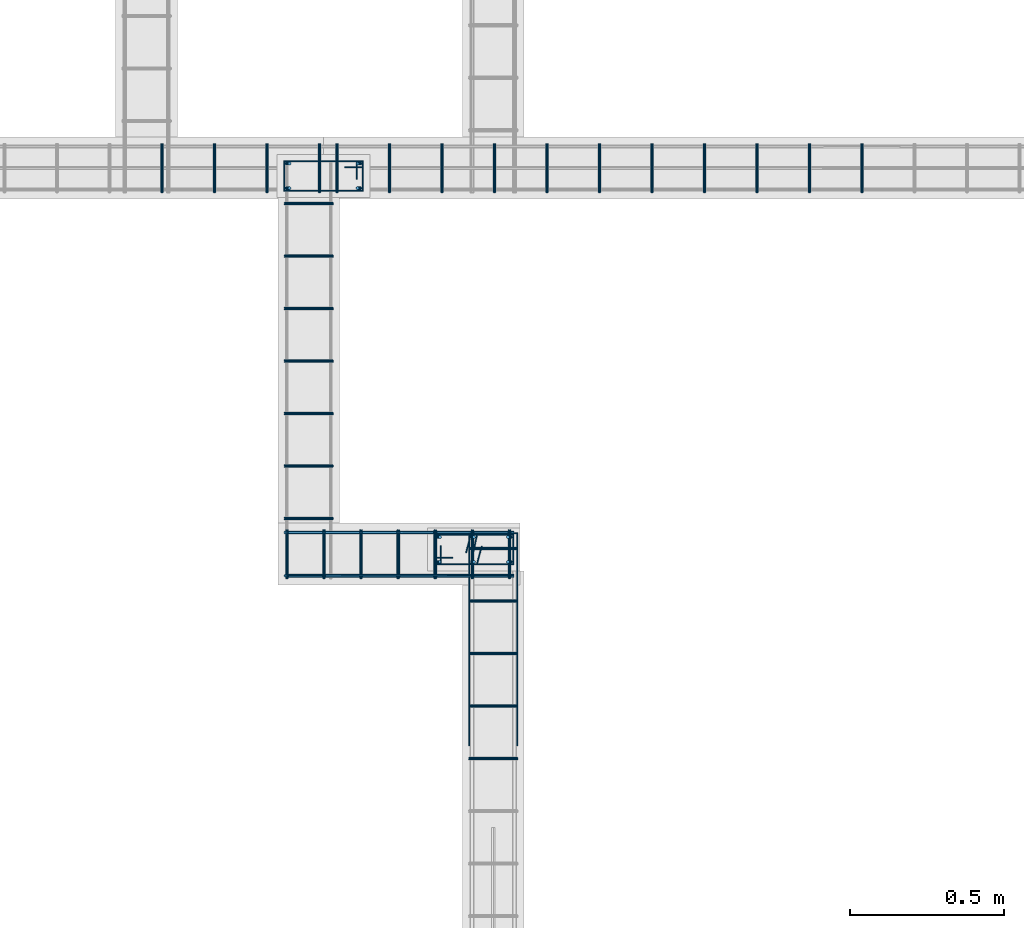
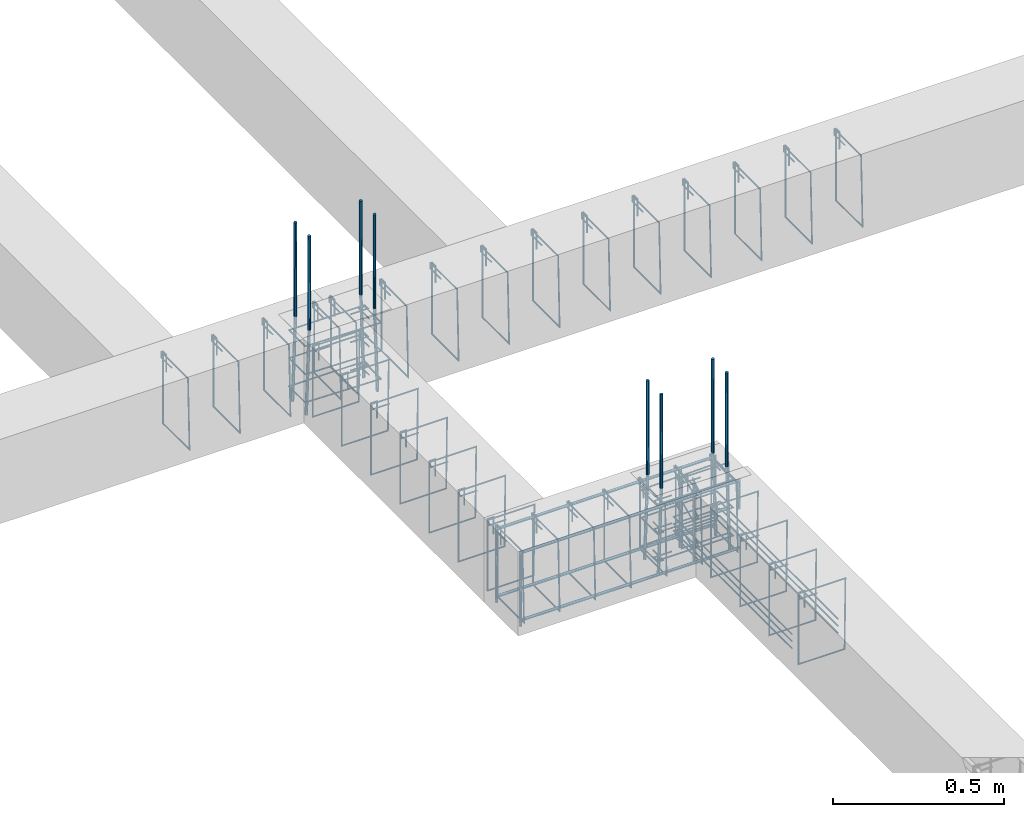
# One storey, part 72 of 150: 60 reinforcing bars.
"""IFC4 building model written with IfcOpenShell, lengths in centimetres."""

from ifc_helpers import new_model, entity, si_unit, derived_unit, frame, origin_with_axes, place, context, project, spatial, source, transform, mapped, element, save


model = new_model("IFC4")

# Units and contexts
model_context = context("Model", 3, precision=1e-05, world=origin_with_axes(), identifier="Body")
ifc_project = project(units=[si_unit("LENGTHUNIT", "METRE", prefix="CENTI"), si_unit("VOLUMEUNIT", "CUBIC_METRE"), si_unit("AREAUNIT", "SQUARE_METRE"), si_unit("POWERUNIT", "WATT"), si_unit("LUMINOUSFLUXUNIT", "LUMEN"), si_unit("ELECTRICCURRENTUNIT", "AMPERE"), si_unit("PRESSUREUNIT", "PASCAL", prefix="KILO"), si_unit("MASSUNIT", "GRAM", prefix="KILO"), si_unit("PLANEANGLEUNIT", "RADIAN"), derived_unit("VOLUMETRICFLOWRATEUNIT", [(si_unit("LENGTHUNIT", "METRE"), 3), (si_unit("TIMEUNIT", "SECOND"), -1)])], contexts=[model_context])

# Site, building, storey
site_placement = place(None, frame((-4000.0, 0.0, 0.0), z_axis=(0.0, 0.0, 1.0), x_axis=(1.0, 0.0, 0.0)))
site = spatial("IfcSite", under=ifc_project, at=site_placement, Name="PADRÃO")
building_placement = place(site_placement, frame((0.0, 0.0, -14.0)))
building = spatial("IfcBuilding", under=site, at=building_placement, Name="CRECHE PRÉ-ESCOLA TIPO 2")
placement = place(building_placement, origin_with_axes())
storey_placement = place(placement, frame((0.0, 0.0, 30.0), z_axis=(0.0, 0.0, 1.0), x_axis=(1.0, 0.0, 0.0)))
storey = spatial("IfcBuildingStorey", under=building, at=storey_placement, Name="VIGA BALDRAME", CompositionType="ELEMENT", Elevation=16.0)

# Reinforcing bars
shared_shape_1 = source(origin_with_axes(), model_context, "Body", "AdvancedSweptSolid", [
    entity("IfcSweptDiskSolid", entity("IfcCompositeCurve", [entity("IfcCompositeCurveSegment", "CONTINUOUS", True, entity("IfcPolyline", [entity("IfcCartesianPoint", [4.25, 21.75, 0.0]), entity("IfcCartesianPoint", [4.25, 27.75, 0.0])])), entity("IfcCompositeCurveSegment", "CONTINUOUS", True, entity("IfcPolyline", [entity("IfcCartesianPoint", [4.25, 27.75, 0.0]), entity("IfcCartesianPoint", [2.25, 27.75, 0.0])])), entity("IfcCompositeCurveSegment", "CONTINUOUS", True, entity("IfcPolyline", [entity("IfcCartesianPoint", [2.25, 27.75, 0.0]), entity("IfcCartesianPoint", [2.25, 2.25, 0.0])])), entity("IfcCompositeCurveSegment", "CONTINUOUS", True, entity("IfcPolyline", [entity("IfcCartesianPoint", [2.25, 2.25, 0.0]), entity("IfcCartesianPoint", [11.75, 2.25, 0.0])])), entity("IfcCompositeCurveSegment", "CONTINUOUS", True, entity("IfcPolyline", [entity("IfcCartesianPoint", [11.75, 2.25, 0.0]), entity("IfcCartesianPoint", [11.75, 27.75, -0.5])])), entity("IfcCompositeCurveSegment", "CONTINUOUS", True, entity("IfcPolyline", [entity("IfcCartesianPoint", [11.75, 27.75, -0.5]), entity("IfcCartesianPoint", [2.25, 27.75, -0.5])])), entity("IfcCompositeCurveSegment", "CONTINUOUS", True, entity("IfcPolyline", [entity("IfcCartesianPoint", [2.25, 27.75, -0.5]), entity("IfcCartesianPoint", [2.25, 25.75, -0.5])])), entity("IfcCompositeCurveSegment", "CONTINUOUS", True, entity("IfcPolyline", [entity("IfcCartesianPoint", [2.25, 25.75, -0.5]), entity("IfcCartesianPoint", [8.25, 25.75, -0.5])]))], False), 0.25),
])
for number, where, z_axis, x_axis, name in (
    (1, (1046.0, 3204.49, -25.0), (0.0, 0.0, 1.0), (0.0, -1.0, 0.0), "P50 - Estribo"),
    (2, (1046.0, 3204.49, -15.0), (0.0, 0.0, 1.0), (0.0, -1.0, 0.0), "P50 - Estribo"),
    (3, (1046.0, 3204.49, -5.0), (0.0, 0.0, 1.0), (0.0, -1.0, 0.0), "P50 - Estribo"),
):
    element("IfcReinforcingBar", number, at=place(storey_placement, frame(where, z_axis=z_axis, x_axis=x_axis)), inside=storey, Name=name, BarLength=0.0, CrossSectionArea=1.9634954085e-05, NominalDiameter=0.5, PredefinedType="MAIN", context=model_context, shape_type="MappedRepresentation", body=[
        mapped(shared_shape_1, transform((0.0, 0.0, 0.0), scale=1.0)),
    ])
shared_shape_2 = source(origin_with_axes(), model_context, "Body", "AdvancedSweptSolid", [
    entity("IfcSweptDiskSolid", entity("IfcCompositeCurve", [entity("IfcCompositeCurveSegment", "CONTINUOUS", True, entity("IfcPolyline", [entity("IfcCartesianPoint", [4.25, 21.75, 0.0]), entity("IfcCartesianPoint", [4.25, 27.75, 0.0])])), entity("IfcCompositeCurveSegment", "CONTINUOUS", True, entity("IfcPolyline", [entity("IfcCartesianPoint", [4.25, 27.75, 0.0]), entity("IfcCartesianPoint", [2.25, 27.75, 0.0])])), entity("IfcCompositeCurveSegment", "CONTINUOUS", True, entity("IfcPolyline", [entity("IfcCartesianPoint", [2.25, 27.75, 0.0]), entity("IfcCartesianPoint", [2.25, 2.25, 0.0])])), entity("IfcCompositeCurveSegment", "CONTINUOUS", True, entity("IfcPolyline", [entity("IfcCartesianPoint", [2.25, 2.25, 0.0]), entity("IfcCartesianPoint", [11.75, 2.25, 0.0])])), entity("IfcCompositeCurveSegment", "CONTINUOUS", True, entity("IfcPolyline", [entity("IfcCartesianPoint", [11.75, 2.25, 0.0]), entity("IfcCartesianPoint", [11.75, 27.75, -0.5])])), entity("IfcCompositeCurveSegment", "CONTINUOUS", True, entity("IfcPolyline", [entity("IfcCartesianPoint", [11.75, 27.75, -0.5]), entity("IfcCartesianPoint", [2.25, 27.75, -0.5])])), entity("IfcCompositeCurveSegment", "CONTINUOUS", True, entity("IfcPolyline", [entity("IfcCartesianPoint", [2.25, 27.75, -0.5]), entity("IfcCartesianPoint", [2.25, 25.75, -0.5])])), entity("IfcCompositeCurveSegment", "CONTINUOUS", True, entity("IfcPolyline", [entity("IfcCartesianPoint", [2.25, 25.75, -0.5]), entity("IfcCartesianPoint", [8.25, 25.75, -0.5])]))], False), 0.25),
])
for number, where, z_axis, x_axis, name in (
    (4, (1124.72, 3069.5, -5.0), (0.0, 0.0, 1.0), (0.0, 1.0, 0.0), "P58 - Estribo"),
    (5, (1124.72, 3069.5, -25.0), (0.0, 0.0, 1.0), (0.0, 1.0, 0.0), "P58 - Estribo"),
    (6, (1124.72, 3069.5, -15.0), (0.0, 0.0, 1.0), (0.0, 1.0, 0.0), "P58 - Estribo"),
):
    element("IfcReinforcingBar", number, at=place(storey_placement, frame(where, z_axis=z_axis, x_axis=x_axis)), inside=storey, Name=name, BarLength=0.0, CrossSectionArea=1.9634954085e-05, NominalDiameter=0.5, PredefinedType="MAIN", context=model_context, shape_type="MappedRepresentation", body=[
        mapped(shared_shape_2, transform((0.0, 0.0, 0.0), scale=1.0)),
    ])
shared_shape_3 = source(origin_with_axes(), model_context, "Body", "AdvancedSweptSolid", [
    entity("IfcSweptDiskSolid", entity("IfcCompositeCurve", [entity("IfcCompositeCurveSegment", "CONTINUOUS", True, entity("IfcPolyline", [entity("IfcCartesianPoint", [5.88627916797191, 17.5449050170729, 0.0]), entity("IfcCartesianPoint", [11.75, 16.0, 0.0])])), entity("IfcCompositeCurveSegment", "CONTINUOUS", True, entity("IfcPolyline", [entity("IfcCartesianPoint", [11.75, 16.0, 0.0]), entity("IfcCartesianPoint", [11.75, 14.0, 0.0])])), entity("IfcCompositeCurveSegment", "CONTINUOUS", True, entity("IfcPolyline", [entity("IfcCartesianPoint", [11.75, 14.0, 0.0]), entity("IfcCartesianPoint", [2.25, 16.0, 0.0])])), entity("IfcCompositeCurveSegment", "CONTINUOUS", True, entity("IfcPolyline", [entity("IfcCartesianPoint", [2.25, 16.0, 0.0]), entity("IfcCartesianPoint", [2.25, 14.0, 0.0])])), entity("IfcCompositeCurveSegment", "CONTINUOUS", True, entity("IfcPolyline", [entity("IfcCartesianPoint", [2.25, 14.0, 0.0]), entity("IfcCartesianPoint", [8.11372083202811, 12.4550949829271, 0.0])]))], False), 0.25),
])
for number, where, z_axis, x_axis, name in (
    (7, (1124.72, 3069.5, -14.5), (0.0, 0.0, 1.0), (0.0, 1.0, 0.0), "P58 - Grampo"),
    (8, (1124.72, 3069.5, -24.5), (0.0, 0.0, 1.0), (0.0, 1.0, 0.0), "P58 - Grampo"),
    (9, (1124.72, 3069.5, -4.5), (0.0, 0.0, 1.0), (0.0, 1.0, 0.0), "P58 - Grampo"),
):
    element("IfcReinforcingBar", number, at=place(storey_placement, frame(where, z_axis=z_axis, x_axis=x_axis)), inside=storey, Name=name, BarLength=0.0, CrossSectionArea=1.9634954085e-05, NominalDiameter=0.5, PredefinedType="MAIN", context=model_context, shape_type="MappedRepresentation", body=[
        mapped(shared_shape_3, transform((0.0, 0.0, 0.0), scale=1.0)),
    ])
shared_shape_4 = source(origin_with_axes(), model_context, "Body", "AdvancedSweptSolid", [
    entity("IfcSweptDiskSolid", entity("IfcCompositeCurve", [entity("IfcCompositeCurveSegment", "CONTINUOUS", True, entity("IfcPolyline", [entity("IfcCartesianPoint", [2.0, -6.0, 0.0]), entity("IfcCartesianPoint", [2.0, 0.0, 0.0])])), entity("IfcCompositeCurveSegment", "CONTINUOUS", True, entity("IfcPolyline", [entity("IfcCartesianPoint", [2.0, 0.0, 0.0]), entity("IfcCartesianPoint", [0.0, 0.0, 0.0])])), entity("IfcCompositeCurveSegment", "CONTINUOUS", True, entity("IfcPolyline", [entity("IfcCartesianPoint", [0.0, 0.0, 0.0]), entity("IfcCartesianPoint", [0.0, -25.5, 0.0])])), entity("IfcCompositeCurveSegment", "CONTINUOUS", True, entity("IfcPolyline", [entity("IfcCartesianPoint", [0.0, -25.5, 0.0]), entity("IfcCartesianPoint", [15.5, -25.5, 0.0])])), entity("IfcCompositeCurveSegment", "CONTINUOUS", True, entity("IfcPolyline", [entity("IfcCartesianPoint", [15.5, -25.5, 0.0]), entity("IfcCartesianPoint", [15.5, 0.0, 0.5])])), entity("IfcCompositeCurveSegment", "CONTINUOUS", True, entity("IfcPolyline", [entity("IfcCartesianPoint", [15.5, 0.0, 0.5]), entity("IfcCartesianPoint", [0.0, 0.0, 0.5])])), entity("IfcCompositeCurveSegment", "CONTINUOUS", True, entity("IfcPolyline", [entity("IfcCartesianPoint", [0.0, 0.0, 0.5]), entity("IfcCartesianPoint", [0.0, -2.0, 0.5])])), entity("IfcCompositeCurveSegment", "CONTINUOUS", True, entity("IfcPolyline", [entity("IfcCartesianPoint", [0.0, -2.0, 0.5]), entity("IfcCartesianPoint", [6.0, -2.0, 0.5])]))], False), 0.25),
])
for number, where, z_axis, x_axis, name in (
    (10, (1009.0, 3207.77, -2.25), (-1.0, 0.0, 0.0), (0.0, -1.0, 0.0), "V113 - Estribo"),
    (11, (1026.0, 3207.77, -2.25), (-1.0, 0.0, 0.0), (0.0, -1.0, 0.0), "V113 - Estribo"),
    (12, (1043.0, 3207.77, -2.25), (-1.0, 0.0, 0.0), (0.0, -1.0, 0.0), "V113 - Estribo"),
    (13, (1060.0, 3207.77, -2.25), (-1.0, 0.0, 0.0), (0.0, -1.0, 0.0), "V113 - Estribo"),
):
    element("IfcReinforcingBar", number, at=place(storey_placement, frame(where, z_axis=z_axis, x_axis=x_axis)), inside=storey, Name=name, BarLength=0.0, CrossSectionArea=1.9634954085e-05, NominalDiameter=0.5, PredefinedType="MAIN", context=model_context, shape_type="MappedRepresentation", body=[
        mapped(shared_shape_4, transform((0.0, 0.0, 0.0), scale=1.0)),
    ])
shared_shape_5 = source(origin_with_axes(), model_context, "Body", "AdvancedSweptSolid", [
    entity("IfcSweptDiskSolid", entity("IfcCompositeCurve", [entity("IfcCompositeCurveSegment", "CONTINUOUS", True, entity("IfcPolyline", [entity("IfcCartesianPoint", [2.0, -6.0, 0.0]), entity("IfcCartesianPoint", [2.0, 0.0, 0.0])])), entity("IfcCompositeCurveSegment", "CONTINUOUS", True, entity("IfcPolyline", [entity("IfcCartesianPoint", [2.0, 0.0, 0.0]), entity("IfcCartesianPoint", [0.0, 0.0, 0.0])])), entity("IfcCompositeCurveSegment", "CONTINUOUS", True, entity("IfcPolyline", [entity("IfcCartesianPoint", [0.0, 0.0, 0.0]), entity("IfcCartesianPoint", [0.0, -25.5, 0.0])])), entity("IfcCompositeCurveSegment", "CONTINUOUS", True, entity("IfcPolyline", [entity("IfcCartesianPoint", [0.0, -25.5, 0.0]), entity("IfcCartesianPoint", [15.5, -25.5, 0.0])])), entity("IfcCompositeCurveSegment", "CONTINUOUS", True, entity("IfcPolyline", [entity("IfcCartesianPoint", [15.5, -25.5, 0.0]), entity("IfcCartesianPoint", [15.5, 0.0, 0.5])])), entity("IfcCompositeCurveSegment", "CONTINUOUS", True, entity("IfcPolyline", [entity("IfcCartesianPoint", [15.5, 0.0, 0.5]), entity("IfcCartesianPoint", [0.0, 0.0, 0.5])])), entity("IfcCompositeCurveSegment", "CONTINUOUS", True, entity("IfcPolyline", [entity("IfcCartesianPoint", [0.0, 0.0, 0.5]), entity("IfcCartesianPoint", [0.0, -2.0, 0.5])])), entity("IfcCompositeCurveSegment", "CONTINUOUS", True, entity("IfcPolyline", [entity("IfcCartesianPoint", [0.0, -2.0, 0.5]), entity("IfcCartesianPoint", [6.0, -2.0, 0.5])]))], False), 0.25),
])
for number, where, z_axis, x_axis, name in (
    (14, (1065.625, 3207.77, -2.25), (-1.0, 0.0, 0.0), (0.0, -1.0, 0.0), "V113 - Estribo"),
    (15, (1082.625, 3207.77, -2.25), (-1.0, 0.0, 0.0), (0.0, -1.0, 0.0), "V113 - Estribo"),
    (16, (1099.625, 3207.77, -2.25), (-1.0, 0.0, 0.0), (0.0, -1.0, 0.0), "V113 - Estribo"),
    (17, (1116.625, 3207.77, -2.25), (-1.0, 0.0, 0.0), (0.0, -1.0, 0.0), "V113 - Estribo"),
    (18, (1133.625, 3207.77, -2.25), (-1.0, 0.0, 0.0), (0.0, -1.0, 0.0), "V113 - Estribo"),
    (19, (1150.625, 3207.77, -2.25), (-1.0, 0.0, 0.0), (0.0, -1.0, 0.0), "V113 - Estribo"),
    (20, (1167.625, 3207.77, -2.25), (-1.0, 0.0, 0.0), (0.0, -1.0, 0.0), "V113 - Estribo"),
    (21, (1184.625, 3207.77, -2.25), (-1.0, 0.0, 0.0), (0.0, -1.0, 0.0), "V113 - Estribo"),
    (22, (1201.625, 3207.77, -2.25), (-1.0, 0.0, 0.0), (0.0, -1.0, 0.0), "V113 - Estribo"),
    (23, (1218.625, 3207.77, -2.25), (-1.0, 0.0, 0.0), (0.0, -1.0, 0.0), "V113 - Estribo"),
    (24, (1235.625, 3207.77, -2.25), (-1.0, 0.0, 0.0), (0.0, -1.0, 0.0), "V113 - Estribo"),
):
    element("IfcReinforcingBar", number, at=place(storey_placement, frame(where, z_axis=z_axis, x_axis=x_axis)), inside=storey, Name=name, BarLength=0.0, CrossSectionArea=1.9634954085e-05, NominalDiameter=0.5, PredefinedType="MAIN", context=model_context, shape_type="MappedRepresentation", body=[
        mapped(shared_shape_5, transform((0.0, 0.0, 0.0), scale=1.0)),
    ])
shared_shape_6 = source(origin_with_axes(), model_context, "Body", "AdvancedSweptSolid", [
    entity("IfcSweptDiskSolid", entity("IfcCompositeCurve", [entity("IfcCompositeCurveSegment", "CONTINUOUS", True, entity("IfcPolyline", [entity("IfcCartesianPoint", [2.0, -6.0, 0.0]), entity("IfcCartesianPoint", [2.0, 0.0, 0.0])])), entity("IfcCompositeCurveSegment", "CONTINUOUS", True, entity("IfcPolyline", [entity("IfcCartesianPoint", [2.0, 0.0, 0.0]), entity("IfcCartesianPoint", [0.0, 0.0, 0.0])])), entity("IfcCompositeCurveSegment", "CONTINUOUS", True, entity("IfcPolyline", [entity("IfcCartesianPoint", [0.0, 0.0, 0.0]), entity("IfcCartesianPoint", [0.0, -25.5, 0.0])])), entity("IfcCompositeCurveSegment", "CONTINUOUS", True, entity("IfcPolyline", [entity("IfcCartesianPoint", [0.0, -25.5, 0.0]), entity("IfcCartesianPoint", [15.5, -25.5, 0.0])])), entity("IfcCompositeCurveSegment", "CONTINUOUS", True, entity("IfcPolyline", [entity("IfcCartesianPoint", [15.5, -25.5, 0.0]), entity("IfcCartesianPoint", [15.5, 0.0, 0.5])])), entity("IfcCompositeCurveSegment", "CONTINUOUS", True, entity("IfcPolyline", [entity("IfcCartesianPoint", [15.5, 0.0, 0.5]), entity("IfcCartesianPoint", [0.0, 0.0, 0.5])])), entity("IfcCompositeCurveSegment", "CONTINUOUS", True, entity("IfcPolyline", [entity("IfcCartesianPoint", [0.0, 0.0, 0.5]), entity("IfcCartesianPoint", [0.0, -2.0, 0.5])])), entity("IfcCompositeCurveSegment", "CONTINUOUS", True, entity("IfcPolyline", [entity("IfcCartesianPoint", [0.0, -2.0, 0.5]), entity("IfcCartesianPoint", [6.0, -2.0, 0.5])]))], False), 0.25),
])
for number, where, z_axis, x_axis, name in (
    (25, (1108.25, 3077.0, -2.25), (0.0, -1.0, 0.0), (1.0, 0.0, 0.0), "V183 - Estribo"),
    (26, (1108.25, 3060.0, -2.25), (0.0, -1.0, 0.0), (1.0, 0.0, 0.0), "V183 - Estribo"),
    (27, (1108.25, 3043.0, -2.25), (0.0, -1.0, 0.0), (1.0, 0.0, 0.0), "V183 - Estribo"),
    (28, (1108.25, 3026.0, -2.25), (0.0, -1.0, 0.0), (1.0, 0.0, 0.0), "V183 - Estribo"),
    (29, (1108.25, 3009.0, -2.25), (0.0, -1.0, 0.0), (1.0, 0.0, 0.0), "V183 - Estribo"),
):
    element("IfcReinforcingBar", number, at=place(storey_placement, frame(where, z_axis=z_axis, x_axis=x_axis)), inside=storey, Name=name, BarLength=0.0, CrossSectionArea=1.9634954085e-05, NominalDiameter=0.5, PredefinedType="MAIN", context=model_context, shape_type="MappedRepresentation", body=[
        mapped(shared_shape_6, transform((0.0, 0.0, 0.0), scale=1.0)),
    ])
shared_shape_7 = source(origin_with_axes(), model_context, "Body", "AdvancedSweptSolid", [
    entity("IfcSweptDiskSolid", entity("IfcCompositeCurve", [entity("IfcCompositeCurveSegment", "CONTINUOUS", True, entity("IfcPolyline", [entity("IfcCartesianPoint", [0.0, 0.0, 0.0]), entity("IfcCartesianPoint", [0.0, 68.9569359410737, 0.0])])), entity("IfcCompositeCurveSegment", "CONTINUOUS", True, entity("IfcPolyline", [entity("IfcCartesianPoint", [0.0, 68.9569359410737, 0.0]), entity("IfcCartesianPoint", [-15.5, 68.9569359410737, 0.0])])), entity("IfcCompositeCurveSegment", "CONTINUOUS", True, entity("IfcPolyline", [entity("IfcCartesianPoint", [-15.5, 68.9569359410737, 0.0]), entity("IfcCartesianPoint", [-15.5, 0.0, 0.0])]))], False), 0.25),
])
for number, where, z_axis, x_axis, name in (
    (30, (1123.75, 3012.79306405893, -24.375), (0.0, 0.0, 1.0), (1.0, 0.0, 0.0), "V183 - Grampo"),
    (31, (1123.75, 3012.79306405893, -21.875), (0.0, 0.0, 1.0), (1.0, 0.0, 0.0), "V183 - Grampo"),
    (32, (1123.75, 3012.79306405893, -19.375), (0.0, 0.0, 1.0), (1.0, 0.0, 0.0), "V183 - Grampo"),
):
    element("IfcReinforcingBar", number, at=place(storey_placement, frame(where, z_axis=z_axis, x_axis=x_axis)), inside=storey, Name=name, BarLength=0.0, CrossSectionArea=1.9634954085e-05, NominalDiameter=0.5, PredefinedType="MAIN", context=model_context, shape_type="MappedRepresentation", body=[
        mapped(shared_shape_7, transform((0.0, 0.0, 0.0), scale=1.0)),
    ])
shared_shape_8 = source(origin_with_axes(), model_context, "Body", "AdvancedSweptSolid", [
    entity("IfcSweptDiskSolid", entity("IfcCompositeCurve", [entity("IfcCompositeCurveSegment", "CONTINUOUS", True, entity("IfcPolyline", [entity("IfcCartesianPoint", [2.0, -6.0, 0.0]), entity("IfcCartesianPoint", [2.0, 0.0, 0.0])])), entity("IfcCompositeCurveSegment", "CONTINUOUS", True, entity("IfcPolyline", [entity("IfcCartesianPoint", [2.0, 0.0, 0.0]), entity("IfcCartesianPoint", [0.0, 0.0, 0.0])])), entity("IfcCompositeCurveSegment", "CONTINUOUS", True, entity("IfcPolyline", [entity("IfcCartesianPoint", [0.0, 0.0, 0.0]), entity("IfcCartesianPoint", [0.0, -25.5, 0.0])])), entity("IfcCompositeCurveSegment", "CONTINUOUS", True, entity("IfcPolyline", [entity("IfcCartesianPoint", [0.0, -25.5, 0.0]), entity("IfcCartesianPoint", [15.5, -25.5, 0.0])])), entity("IfcCompositeCurveSegment", "CONTINUOUS", True, entity("IfcPolyline", [entity("IfcCartesianPoint", [15.5, -25.5, 0.0]), entity("IfcCartesianPoint", [15.5, 0.0, 0.5])])), entity("IfcCompositeCurveSegment", "CONTINUOUS", True, entity("IfcPolyline", [entity("IfcCartesianPoint", [15.5, 0.0, 0.5]), entity("IfcCartesianPoint", [0.0, 0.0, 0.5])])), entity("IfcCompositeCurveSegment", "CONTINUOUS", True, entity("IfcPolyline", [entity("IfcCartesianPoint", [0.0, 0.0, 0.5]), entity("IfcCartesianPoint", [0.0, -2.0, 0.5])])), entity("IfcCompositeCurveSegment", "CONTINUOUS", True, entity("IfcPolyline", [entity("IfcCartesianPoint", [0.0, -2.0, 0.5]), entity("IfcCartesianPoint", [6.0, -2.0, 0.5])]))], False), 0.25),
])
for number, where, z_axis, x_axis, name in (
    (33, (1048.45, 3188.745, -2.25), (0.0, -1.0, 0.0), (1.0, 0.0, 0.0), "V181 - Estribo"),
    (34, (1048.45, 3171.745, -2.25), (0.0, -1.0, 0.0), (1.0, 0.0, 0.0), "V181 - Estribo"),
    (35, (1048.45, 3120.745, -2.25), (0.0, -1.0, 0.0), (1.0, 0.0, 0.0), "V181 - Estribo"),
    (36, (1048.45, 3137.745, -2.25), (0.0, -1.0, 0.0), (1.0, 0.0, 0.0), "V181 - Estribo"),
    (37, (1048.45, 3103.745, -2.25), (0.0, -1.0, 0.0), (1.0, 0.0, 0.0), "V181 - Estribo"),
    (38, (1048.45, 3154.745, -2.25), (0.0, -1.0, 0.0), (1.0, 0.0, 0.0), "V181 - Estribo"),
    (39, (1048.45, 3086.745, -2.25), (0.0, -1.0, 0.0), (1.0, 0.0, 0.0), "V181 - Estribo"),
):
    element("IfcReinforcingBar", number, at=place(storey_placement, frame(where, z_axis=z_axis, x_axis=x_axis)), inside=storey, Name=name, BarLength=0.0, CrossSectionArea=1.9634954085e-05, NominalDiameter=0.5, PredefinedType="MAIN", context=model_context, shape_type="MappedRepresentation", body=[
        mapped(shared_shape_8, transform((0.0, 0.0, 0.0), scale=1.0)),
    ])
shared_shape_9 = source(origin_with_axes(), model_context, "Body", "AdvancedSweptSolid", [
    entity("IfcSweptDiskSolid", entity("IfcCompositeCurve", [entity("IfcCompositeCurveSegment", "CONTINUOUS", True, entity("IfcPolyline", [entity("IfcCartesianPoint", [2.0, -6.0, 0.0]), entity("IfcCartesianPoint", [2.0, 0.0, 0.0])])), entity("IfcCompositeCurveSegment", "CONTINUOUS", True, entity("IfcPolyline", [entity("IfcCartesianPoint", [2.0, 0.0, 0.0]), entity("IfcCartesianPoint", [0.0, 0.0, 0.0])])), entity("IfcCompositeCurveSegment", "CONTINUOUS", True, entity("IfcPolyline", [entity("IfcCartesianPoint", [0.0, 0.0, 0.0]), entity("IfcCartesianPoint", [0.0, -25.5, 0.0])])), entity("IfcCompositeCurveSegment", "CONTINUOUS", True, entity("IfcPolyline", [entity("IfcCartesianPoint", [0.0, -25.5, 0.0]), entity("IfcCartesianPoint", [15.5, -25.5, 0.0])])), entity("IfcCompositeCurveSegment", "CONTINUOUS", True, entity("IfcPolyline", [entity("IfcCartesianPoint", [15.5, -25.5, 0.0]), entity("IfcCartesianPoint", [15.5, 0.0, 0.5])])), entity("IfcCompositeCurveSegment", "CONTINUOUS", True, entity("IfcPolyline", [entity("IfcCartesianPoint", [15.5, 0.0, 0.5]), entity("IfcCartesianPoint", [0.0, 0.0, 0.5])])), entity("IfcCompositeCurveSegment", "CONTINUOUS", True, entity("IfcPolyline", [entity("IfcCartesianPoint", [0.0, 0.0, 0.5]), entity("IfcCartesianPoint", [0.0, -2.0, 0.5])])), entity("IfcCompositeCurveSegment", "CONTINUOUS", True, entity("IfcPolyline", [entity("IfcCartesianPoint", [0.0, -2.0, 0.5]), entity("IfcCartesianPoint", [6.0, -2.0, 0.5])]))], False), 0.25),
])
for number, where, z_axis, x_axis, name in (
    (40, (1061.46, 3082.75, -2.25), (-1.0, 0.0, 0.0), (0.0, -1.0, 0.0), "V115 - Estribo"),
    (41, (1049.46, 3082.75, -2.25), (-1.0, 0.0, 0.0), (0.0, -1.0, 0.0), "V115 - Estribo"),
    (42, (1073.46, 3082.75, -2.25), (-1.0, 0.0, 0.0), (0.0, -1.0, 0.0), "V115 - Estribo"),
    (43, (1085.46, 3082.75, -2.25), (-1.0, 0.0, 0.0), (0.0, -1.0, 0.0), "V115 - Estribo"),
    (44, (1097.46, 3082.75, -2.25), (-1.0, 0.0, 0.0), (0.0, -1.0, 0.0), "V115 - Estribo"),
    (45, (1109.46, 3082.75, -2.25), (-1.0, 0.0, 0.0), (0.0, -1.0, 0.0), "V115 - Estribo"),
    (46, (1121.46, 3082.75, -2.25), (-1.0, 0.0, 0.0), (0.0, -1.0, 0.0), "V115 - Estribo"),
):
    element("IfcReinforcingBar", number, at=place(storey_placement, frame(where, z_axis=z_axis, x_axis=x_axis)), inside=storey, Name=name, BarLength=0.0, CrossSectionArea=1.9634954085e-05, NominalDiameter=0.5, PredefinedType="MAIN", context=model_context, shape_type="MappedRepresentation", body=[
        mapped(shared_shape_9, transform((0.0, 0.0, 0.0), scale=1.0)),
    ])
for number, where, z_axis, x_axis, name in (
    (47, (1049.50013877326, 3193.49, 33.3573001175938), (0.0, 0.0, 1.0), (1.0, 0.0, 0.0), "P50 - Longitudinal"),
    (48, (1049.50013877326, 3201.49, 33.3573001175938), (0.0, 0.0, 1.0), (1.0, 0.0, 0.0), "P50 - Longitudinal"),
):
    element("IfcReinforcingBar", number, at=place(storey_placement, frame(where, z_axis=z_axis, x_axis=x_axis)), inside=storey, Name=name, BarLength=0.0, CrossSectionArea=7.853981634e-05, NominalDiameter=1.0, PredefinedType="MAIN", context=model_context, shape_type="AdvancedSweptSolid", body=[
        entity("IfcSweptDiskSolid", entity("IfcCompositeCurve", [entity("IfcCompositeCurveSegment", "CONTINUOUS", True, entity("IfcPolyline", [entity("IfcCartesianPoint", [-0.50013877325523, 0.0, -63.3573001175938]), entity("IfcCartesianPoint", [0.49986122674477, 0.0, -33.3573001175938])])), entity("IfcCompositeCurveSegment", "CONTINUOUS", True, entity("IfcPolyline", [entity("IfcCartesianPoint", [0.49986122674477, 0.0, -33.3573001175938]), entity("IfcCartesianPoint", [0.49986122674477, 0.0, 0.0])]))], False), 0.5),
    ])
for number, where, z_axis, x_axis, name in (
    (49, (1072.49986122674, 3193.49, 33.3573001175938), (0.0, 0.0, 1.0), (1.0, 0.0, 0.0), "P50 - Longitudinal"),
    (50, (1072.49986122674, 3201.49, 33.3573001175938), (0.0, 0.0, 1.0), (1.0, 0.0, 0.0), "P50 - Longitudinal"),
):
    element("IfcReinforcingBar", number, at=place(storey_placement, frame(where, z_axis=z_axis, x_axis=x_axis)), inside=storey, Name=name, BarLength=0.0, CrossSectionArea=7.853981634e-05, NominalDiameter=1.0, PredefinedType="MAIN", context=model_context, shape_type="AdvancedSweptSolid", body=[
        entity("IfcSweptDiskSolid", entity("IfcCompositeCurve", [entity("IfcCompositeCurveSegment", "CONTINUOUS", True, entity("IfcPolyline", [entity("IfcCartesianPoint", [0.50013877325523, 0.0, -63.3573001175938]), entity("IfcCartesianPoint", [-0.49986122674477, 0.0, -33.3573001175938])])), entity("IfcCompositeCurveSegment", "CONTINUOUS", True, entity("IfcPolyline", [entity("IfcCartesianPoint", [-0.49986122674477, 0.0, -33.3573001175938]), entity("IfcCartesianPoint", [-0.49986122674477, 0.0, 0.0])]))], False), 0.5),
    ])
for number, where, z_axis, x_axis, name in (
    (51, (1109.72, 3080.5, -2.0), (0.0, 0.0, 1.0), (1.0, 0.0, 0.0), "P58 - Longitudinal"),
    (52, (1109.72, 3072.5, -2.0), (0.0, 0.0, 1.0), (1.0, 0.0, 0.0), "P58 - Longitudinal"),
):
    element("IfcReinforcingBar", number, at=place(storey_placement, frame(where, z_axis=z_axis, x_axis=x_axis)), inside=storey, Name=name, BarLength=0.0, CrossSectionArea=7.853981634e-05, NominalDiameter=1.0, PredefinedType="MAIN", context=model_context, shape_type="AdvancedSweptSolid", body=[
        entity("IfcSweptDiskSolid", entity("IfcCompositeCurve", [entity("IfcCompositeCurveSegment", "CONTINUOUS", True, entity("IfcPolyline", [entity("IfcCartesianPoint", [0.0, 0.0, -28.0]), entity("IfcCartesianPoint", [0.0, 0.0, 0.0])]))], False), 0.5),
    ])
for number, where, z_axis, x_axis, name in (
    (53, (1098.22013877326, 3072.5, 33.3573001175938), (0.0, 0.0, 1.0), (1.0, 0.0, 0.0), "P58 - Longitudinal"),
    (54, (1098.22013877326, 3080.5, 33.3573001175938), (0.0, 0.0, 1.0), (1.0, 0.0, 0.0), "P58 - Longitudinal"),
):
    element("IfcReinforcingBar", number, at=place(storey_placement, frame(where, z_axis=z_axis, x_axis=x_axis)), inside=storey, Name=name, BarLength=0.0, CrossSectionArea=7.853981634e-05, NominalDiameter=1.0, PredefinedType="MAIN", context=model_context, shape_type="AdvancedSweptSolid", body=[
        entity("IfcSweptDiskSolid", entity("IfcCompositeCurve", [entity("IfcCompositeCurveSegment", "CONTINUOUS", True, entity("IfcPolyline", [entity("IfcCartesianPoint", [-0.50013877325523, 0.0, -63.3573001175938]), entity("IfcCartesianPoint", [0.49986122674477, 0.0, -33.3573001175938])])), entity("IfcCompositeCurveSegment", "CONTINUOUS", True, entity("IfcPolyline", [entity("IfcCartesianPoint", [0.49986122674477, 0.0, -33.3573001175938]), entity("IfcCartesianPoint", [0.49986122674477, 0.0, 0.0])]))], False), 0.5),
    ])
for number, where, z_axis, x_axis, name in (
    (55, (1121.21986122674, 3080.5, 33.3573001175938), (0.0, 0.0, 1.0), (1.0, 0.0, 0.0), "P58 - Longitudinal"),
    (56, (1121.21986122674, 3072.5, 33.3573001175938), (0.0, 0.0, 1.0), (1.0, 0.0, 0.0), "P58 - Longitudinal"),
):
    element("IfcReinforcingBar", number, at=place(storey_placement, frame(where, z_axis=z_axis, x_axis=x_axis)), inside=storey, Name=name, BarLength=0.0, CrossSectionArea=7.853981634e-05, NominalDiameter=1.0, PredefinedType="MAIN", context=model_context, shape_type="AdvancedSweptSolid", body=[
        entity("IfcSweptDiskSolid", entity("IfcCompositeCurve", [entity("IfcCompositeCurveSegment", "CONTINUOUS", True, entity("IfcPolyline", [entity("IfcCartesianPoint", [0.50013877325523, 0.0, -63.3573001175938]), entity("IfcCartesianPoint", [-0.49986122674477, 0.0, -33.3573001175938])])), entity("IfcCompositeCurveSegment", "CONTINUOUS", True, entity("IfcPolyline", [entity("IfcCartesianPoint", [-0.49986122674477, 0.0, -33.3573001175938]), entity("IfcCartesianPoint", [-0.49986122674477, 0.0, 0.0])]))], False), 0.5),
    ])
for number, where, z_axis, x_axis, name in (
    (57, (1085.45765608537, 3082.0, -3.32000151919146), (0.0, 0.0, 1.0), (1.0, 0.0, 0.0), "V115 - Longitudinal inferior"),
    (58, (1085.45765608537, 3068.0, -3.32000151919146), (0.0, 0.0, 1.0), (1.0, 0.0, 0.0), "V115 - Longitudinal inferior"),
):
    element("IfcReinforcingBar", number, at=place(storey_placement, frame(where, z_axis=z_axis, x_axis=x_axis)), inside=storey, Name=name, BarLength=0.0, CrossSectionArea=7.853981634e-05, NominalDiameter=1.0, PredefinedType="MAIN", context=model_context, shape_type="AdvancedSweptSolid", body=[
        entity("IfcSweptDiskSolid", entity("IfcCompositeCurve", [entity("IfcCompositeCurveSegment", "CONTINUOUS", True, entity("IfcPolyline", [entity("IfcCartesianPoint", [-36.7576560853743, 0.0, 0.0]), entity("IfcCartesianPoint", [-36.7576560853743, 0.0, -23.6799984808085])])), entity("IfcCompositeCurveSegment", "CONTINUOUS", True, entity("IfcPolyline", [entity("IfcCartesianPoint", [-36.7576560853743, 0.0, -23.6799984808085]), entity("IfcCartesianPoint", [37.2623439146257, 0.0, -23.6799984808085])]))], False), 0.5),
    ])
for number, where, z_axis, x_axis, name in (
    (59, (1085.46, 3082.0, -2.49531217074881), (0.0, 0.0, 1.0), (1.0, 0.0, 0.0), "V115 - Longitudinal superior"),
    (60, (1085.46, 3068.0, -2.49531217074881), (0.0, 0.0, 1.0), (1.0, 0.0, 0.0), "V115 - Longitudinal superior"),
):
    element("IfcReinforcingBar", number, at=place(storey_placement, frame(where, z_axis=z_axis, x_axis=x_axis)), inside=storey, Name=name, BarLength=0.0, CrossSectionArea=7.853981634e-05, NominalDiameter=1.0, PredefinedType="MAIN", context=model_context, shape_type="AdvancedSweptSolid", body=[
        entity("IfcSweptDiskSolid", entity("IfcCompositeCurve", [entity("IfcCompositeCurveSegment", "CONTINUOUS", True, entity("IfcPolyline", [entity("IfcCartesianPoint", [-36.76, 0.0, -26.5046878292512]), entity("IfcCartesianPoint", [-36.76, 0.0, -0.504687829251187])])), entity("IfcCompositeCurveSegment", "CONTINUOUS", True, entity("IfcPolyline", [entity("IfcCartesianPoint", [-36.76, 0.0, -0.504687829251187]), entity("IfcCartesianPoint", [36.76, 0.0, -0.504687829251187])])), entity("IfcCompositeCurveSegment", "CONTINUOUS", True, entity("IfcPolyline", [entity("IfcCartesianPoint", [36.76, 0.0, -0.504687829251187]), entity("IfcCartesianPoint", [36.76, 0.0, -10.5046878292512])]))], False), 0.5),
    ])

save(model, "model.ifc")
